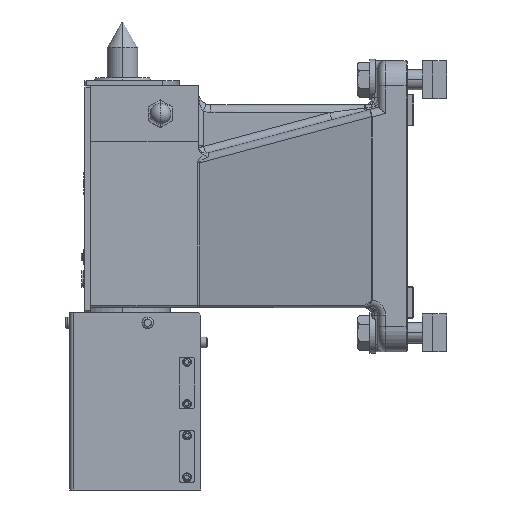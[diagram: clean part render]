
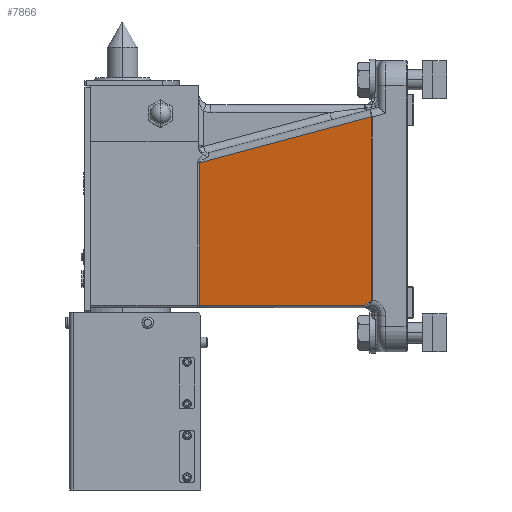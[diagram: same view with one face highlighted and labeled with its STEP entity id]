
A CAD part, left-side view. The second image highlights one B-rep face of the part: STEP entity #7866.
In plain terms, the highlighted planar face has unit normal (-0.975, 0.221, 0).
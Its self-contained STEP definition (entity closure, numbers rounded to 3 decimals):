
#592 = CARTESIAN_POINT ( 'NONE',  ( -74.423, 30.551, -191.047 ) ) ;
#2764 = ORIENTED_EDGE ( 'NONE', *, *, #38973, .T. ) ;
#3911 = VERTEX_POINT ( 'NONE', #54521 ) ;
#4607 = EDGE_CURVE ( 'NONE', #29646, #3911, #6264, .T. ) ;
#5539 = ORIENTED_EDGE ( 'NONE', *, *, #15184, .T. ) ;
#6264 = LINE ( 'NONE', #25693, #50031 ) ;
#6656 = CARTESIAN_POINT ( 'NONE',  ( -74.597, 29.779, -190.651 ) ) ;
#7866 = ADVANCED_FACE ( 'NONE', ( #64170 ), #38306, .F. ) ;
#8459 = EDGE_LOOP ( 'NONE', ( #44407, #2764, #13048, #59623, #5539, #27219 ) ) ;
#9485 = CARTESIAN_POINT ( 'NONE',  ( -73.697, 33.76, -193. ) ) ;
#12645 = CARTESIAN_POINT ( 'NONE',  ( -74.767, 29.03, -190.215 ) ) ;
#13048 = ORIENTED_EDGE ( 'NONE', *, *, #67309, .T. ) ;
#13676 = DIRECTION ( 'NONE',  ( 0.214, 0.944, -0.253 ) ) ;
#15184 = EDGE_CURVE ( 'NONE', #70219, #32068, #39630, .T. ) ;
#15830 = CARTESIAN_POINT ( 'NONE',  ( -74.951, 28.218, -189.063 ) ) ;
#18640 = CARTESIAN_POINT ( 'NONE',  ( -74.891, 28.482, -189.738 ) ) ;
#19518 = CARTESIAN_POINT ( 'NONE',  ( -74.951, 28.218, -44.492 ) ) ;
#20877 = CARTESIAN_POINT ( 'NONE',  ( -44., 165., -230. ) ) ;
#22637 = CARTESIAN_POINT ( 'NONE',  ( -44., 165., -193. ) ) ;
#24358 = CARTESIAN_POINT ( 'NONE',  ( -73.801, 33.3, -192.64 ) ) ;
#24615 = CARTESIAN_POINT ( 'NONE',  ( -74.934, 28.29, -189.424 ) ) ;
#25693 = CARTESIAN_POINT ( 'NONE',  ( -35.95, 200.574, -90.438 ) ) ;
#26879 = DIRECTION ( 'NONE',  ( 0.221, 0.975, 0. ) ) ;
#27219 = ORIENTED_EDGE ( 'NONE', *, *, #34666, .T. ) ;
#28632 = VECTOR ( 'NONE', #70328, 1000. ) ;
#29646 = VERTEX_POINT ( 'NONE', #30668 ) ;
#30372 = CARTESIAN_POINT ( 'NONE',  ( -73.909, 32.821, -192.315 ) ) ;
#30631 = CARTESIAN_POINT ( 'NONE',  ( -74.949, 28.227, -189.211 ) ) ;
#30668 = CARTESIAN_POINT ( 'NONE',  ( -74.944, 28.247, -44.263 ) ) ;
#32068 = VERTEX_POINT ( 'NONE', #19518 ) ;
#34387 = CARTESIAN_POINT ( 'NONE',  ( -74.951, 28.218, -38.34 ) ) ;
#34666 = EDGE_CURVE ( 'NONE', #32068, #29646, #76562, .T. ) ;
#35383 = CARTESIAN_POINT ( 'NONE',  ( -44.148, 164.346, -193. ) ) ;
#36362 = CARTESIAN_POINT ( 'NONE',  ( -74.248, 31.323, -191.443 ) ) ;
#36615 = CARTESIAN_POINT ( 'NONE',  ( -74.951, 28.218, -189.063 ) ) ;
#38306 = PLANE ( 'NONE',  #52900 ) ;
#38973 = EDGE_CURVE ( 'NONE', #3911, #47992, #72990, .T. ) ;
#39630 = LINE ( 'NONE', #34387, #71356 ) ;
#40151 = CARTESIAN_POINT ( 'NONE',  ( -74.944, 28.247, -44.263 ) ) ;
#42318 = CARTESIAN_POINT ( 'NONE',  ( -74.481, 30.293, -190.917 ) ) ;
#44407 = ORIENTED_EDGE ( 'NONE', *, *, #4607, .T. ) ;
#47992 = VERTEX_POINT ( 'NONE', #67080 ) ;
#48308 = CARTESIAN_POINT ( 'NONE',  ( -74.655, 29.524, -190.515 ) ) ;
#50031 = VECTOR ( 'NONE', #13676, 1000. ) ;
#52900 = AXIS2_PLACEMENT_3D ( 'NONE', #20877, #62508, #26879 ) ;
#54342 = CARTESIAN_POINT ( 'NONE',  ( -74.822, 28.787, -190.05 ) ) ;
#54521 = CARTESIAN_POINT ( 'NONE',  ( -44.148, 164.346, -80.73 ) ) ;
#57519 = VERTEX_POINT ( 'NONE', #9485 ) ;
#58950 = VECTOR ( 'NONE', #77100, 1000. ) ;
#59623 = ORIENTED_EDGE ( 'NONE', *, *, #72616, .T. ) ;
#60283 = CARTESIAN_POINT ( 'NONE',  ( -74.912, 28.389, -189.621 ) ) ;
#62508 = DIRECTION ( 'NONE',  ( 0.975, -0.221, 0. ) ) ;
#64170 = FACE_OUTER_BOUND ( 'NONE', #8459, .T. ) ;
#66050 = CARTESIAN_POINT ( 'NONE',  ( -73.697, 33.76, -193. ) ) ;
#66323 = CARTESIAN_POINT ( 'NONE',  ( -74.94, 28.263, -189.354 ) ) ;
#66856 = B_SPLINE_CURVE_WITH_KNOTS ( 'NONE', 3,
 ( #66050, #24358, #30372, #72054, #36362, #592, #42318, #6656, #48308, #12645, #54342, #18640, #60283, #24615, #66323, #30631, #72320, #36615 ),
 .UNSPECIFIED., .F., .F.,
 ( 4, 2, 2, 2, 2, 2, 2, 2, 4 ),
 ( 0., 0.002, 0.004, 0.004, 0.005, 0.006, 0.007, 0.007, 0.007 ),
 .UNSPECIFIED. ) ;
#67080 = CARTESIAN_POINT ( 'NONE',  ( -44.148, 164.346, -193. ) ) ;
#67309 = EDGE_CURVE ( 'NONE', #47992, #57519, #76217, .T. ) ;
#69894 = CARTESIAN_POINT ( 'NONE',  ( -74.951, 28.218, -44.413 ) ) ;
#70081 = DIRECTION ( 'NONE',  ( 0., 0., 1. ) ) ;
#70219 = VERTEX_POINT ( 'NONE', #15830 ) ;
#70328 = DIRECTION ( 'NONE',  ( -0.221, -0.975, 0. ) ) ;
#71356 = VECTOR ( 'NONE', #70081, 1000. ) ;
#72054 = CARTESIAN_POINT ( 'NONE',  ( -74.133, 31.832, -191.716 ) ) ;
#72320 = CARTESIAN_POINT ( 'NONE',  ( -74.951, 28.218, -189.137 ) ) ;
#72616 = EDGE_CURVE ( 'NONE', #57519, #70219, #66856, .T. ) ;
#72990 = LINE ( 'NONE', #35383, #58950 ) ;
#75653 = CARTESIAN_POINT ( 'NONE',  ( -74.951, 28.218, -44.492 ) ) ;
#75918 = CARTESIAN_POINT ( 'NONE',  ( -74.949, 28.228, -44.336 ) ) ;
#76217 = LINE ( 'NONE', #22637, #28632 ) ;
#76562 =( BOUNDED_CURVE ( )  B_SPLINE_CURVE ( 3, ( #75653, #69894, #75918, #40151 ),
 .UNSPECIFIED., .F., .T. ) 
 B_SPLINE_CURVE_WITH_KNOTS ( ( 4, 4 ),
 ( 3.083, 3.14 ),
 .UNSPECIFIED. ) 
 CURVE ( )  GEOMETRIC_REPRESENTATION_ITEM ( )  RATIONAL_B_SPLINE_CURVE ( ( 1., 1., 1., 1. ) ) 
 REPRESENTATION_ITEM ( '' )  );
#77100 = DIRECTION ( 'NONE',  ( 0., 0., -1. ) ) ;
